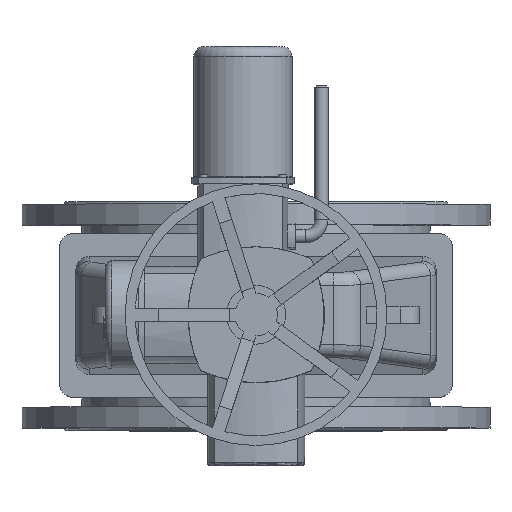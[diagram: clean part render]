
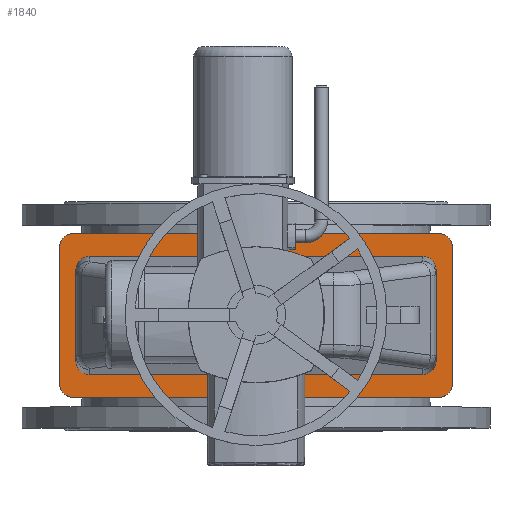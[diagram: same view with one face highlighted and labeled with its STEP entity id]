
A CAD part, top view. The second image highlights one B-rep face of the part: STEP entity #1840.
In plain terms, the highlighted planar face has unit normal (0, 0, 1).
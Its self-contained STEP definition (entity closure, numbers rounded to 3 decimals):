
#1840=ADVANCED_FACE('',(#7058,#7060),#7062,.T.);
#7058=FACE_BOUND('',#7059,.T.);
#7059=EDGE_LOOP('',(#10910,#10911,#10912,#10913,#10914,#10915,#10916,#10917));
#7060=FACE_BOUND('',#7061,.T.);
#7061=EDGE_LOOP('',(#10918,#10919,#10920,#10921,#10922,#10923,#10924,#10925));
#7062=PLANE('',#7063);
#7063=AXIS2_PLACEMENT_3D('',#7064,#7065,#7066);
#7064=CARTESIAN_POINT('',(0.,0.,666.));
#7065=DIRECTION('',(0.,-0.,1.));
#7066=DIRECTION('',(0.,1.,0.));
#10910=ORIENTED_EDGE('',*,*,#12254,.F.);
#10911=ORIENTED_EDGE('',*,*,#12267,.T.);
#10912=ORIENTED_EDGE('',*,*,#12266,.F.);
#10913=ORIENTED_EDGE('',*,*,#12264,.T.);
#10914=ORIENTED_EDGE('',*,*,#12262,.F.);
#10915=ORIENTED_EDGE('',*,*,#12260,.T.);
#10916=ORIENTED_EDGE('',*,*,#12258,.F.);
#10917=ORIENTED_EDGE('',*,*,#12255,.T.);
#10918=ORIENTED_EDGE('',*,*,#12268,.F.);
#10919=ORIENTED_EDGE('',*,*,#12269,.F.);
#10920=ORIENTED_EDGE('',*,*,#12270,.F.);
#10921=ORIENTED_EDGE('',*,*,#12271,.F.);
#10922=ORIENTED_EDGE('',*,*,#12272,.F.);
#10923=ORIENTED_EDGE('',*,*,#12273,.F.);
#10924=ORIENTED_EDGE('',*,*,#12274,.F.);
#10925=ORIENTED_EDGE('',*,*,#12275,.F.);
#12254=EDGE_CURVE('',#13472,#13470,#13474,.F.);
#12255=EDGE_CURVE('',#13475,#13470,#13476,.T.);
#12258=EDGE_CURVE('',#13475,#13478,#13480,.F.);
#12260=EDGE_CURVE('',#13481,#13478,#13483,.T.);
#12262=EDGE_CURVE('',#13481,#13484,#13486,.F.);
#12264=EDGE_CURVE('',#13487,#13484,#13489,.T.);
#12266=EDGE_CURVE('',#13487,#13490,#13492,.F.);
#12267=EDGE_CURVE('',#13472,#13490,#13493,.T.);
#12268=EDGE_CURVE('',#13494,#13495,#13496,.F.);
#12269=EDGE_CURVE('',#13497,#13494,#13498,.T.);
#12270=EDGE_CURVE('',#13499,#13497,#13500,.T.);
#12271=EDGE_CURVE('',#13501,#13499,#13502,.T.);
#12272=EDGE_CURVE('',#13503,#13501,#13504,.F.);
#12273=EDGE_CURVE('',#13505,#13503,#13506,.T.);
#12274=EDGE_CURVE('',#13507,#13505,#13508,.T.);
#12275=EDGE_CURVE('',#13495,#13507,#13509,.T.);
#13470=VERTEX_POINT('',#16576);
#13472=VERTEX_POINT('',#16580);
#13474=CIRCLE('',#16584,20.);
#13475=VERTEX_POINT('',#16588);
#13476=LINE('',#16589,#16590);
#13478=VERTEX_POINT('',#16595);
#13480=CIRCLE('',#16599,20.);
#13481=VERTEX_POINT('',#16603);
#13483=LINE('',#16607,#16608);
#13484=VERTEX_POINT('',#16610);
#13486=CIRCLE('',#16614,20.);
#13487=VERTEX_POINT('',#16618);
#13489=LINE('',#16622,#16623);
#13490=VERTEX_POINT('',#16625);
#13492=CIRCLE('',#16629,20.);
#13493=LINE('',#16633,#16634);
#13494=VERTEX_POINT('',#16636);
#13495=VERTEX_POINT('',#16637);
#13496=(BOUNDED_CURVE()B_SPLINE_CURVE(3,
(#16638,#16639,#16640,#16641),
.UNSPECIFIED.,.F.,.F.)B_SPLINE_CURVE_WITH_KNOTS((4,4),
(0.,1.),
.UNSPECIFIED.)CURVE()GEOMETRIC_REPRESENTATION_ITEM()RATIONAL_B_SPLINE_CURVE((1.,
0.805,0.805,1.))REPRESENTATION_ITEM(''));
#13497=VERTEX_POINT('',#16642);
#13498=LINE('',#16643,#16644);
#13499=VERTEX_POINT('',#16646);
#13500=(BOUNDED_CURVE()B_SPLINE_CURVE(3,
(#16647,#16648,#16649,#16650),
.UNSPECIFIED.,.F.,.F.)B_SPLINE_CURVE_WITH_KNOTS((4,4),
(0.,1.),
.UNSPECIFIED.)CURVE()GEOMETRIC_REPRESENTATION_ITEM()RATIONAL_B_SPLINE_CURVE((1.,
0.805,0.805,1.))REPRESENTATION_ITEM(''));
#13501=VERTEX_POINT('',#16651);
#13502=LINE('',#16652,#16653);
#13503=VERTEX_POINT('',#16655);
#13504=(BOUNDED_CURVE()B_SPLINE_CURVE(3,
(#16656,#16657,#16658,#16659),
.UNSPECIFIED.,.F.,.F.)B_SPLINE_CURVE_WITH_KNOTS((4,4),
(0.,1.),
.UNSPECIFIED.)CURVE()GEOMETRIC_REPRESENTATION_ITEM()RATIONAL_B_SPLINE_CURVE((1.,
0.805,0.805,1.))REPRESENTATION_ITEM(''));
#13505=VERTEX_POINT('',#16660);
#13506=LINE('',#16661,#16662);
#13507=VERTEX_POINT('',#16664);
#13508=(BOUNDED_CURVE()B_SPLINE_CURVE(3,
(#16665,#16666,#16667,#16668),
.UNSPECIFIED.,.F.,.F.)B_SPLINE_CURVE_WITH_KNOTS((4,4),
(0.,1.),
.UNSPECIFIED.)CURVE()GEOMETRIC_REPRESENTATION_ITEM()RATIONAL_B_SPLINE_CURVE((1.,
0.805,0.805,1.))REPRESENTATION_ITEM(''));
#13509=LINE('',#16669,#16670);
#16576=CARTESIAN_POINT('',(-300.,-105.,666.));
#16580=CARTESIAN_POINT('',(-280.,-125.,666.));
#16584=AXIS2_PLACEMENT_3D('',#16585,#16586,#16587);
#16585=CARTESIAN_POINT('',(-280.,-105.,666.));
#16586=DIRECTION('',(0.,-0.,1.));
#16587=DIRECTION('',(-1.,0.,0.));
#16588=CARTESIAN_POINT('',(-300.,105.,666.));
#16589=CARTESIAN_POINT('',(-300.,105.,666.));
#16590=VECTOR('',#16591,1.);
#16591=DIRECTION('',(0.,-1.,0.));
#16595=CARTESIAN_POINT('',(-280.,125.,666.));
#16599=AXIS2_PLACEMENT_3D('',#16600,#16601,#16602);
#16600=CARTESIAN_POINT('',(-280.,105.,666.));
#16601=DIRECTION('',(0.,-0.,1.));
#16602=DIRECTION('',(0.,1.,0.));
#16603=CARTESIAN_POINT('',(280.,125.,666.));
#16607=CARTESIAN_POINT('',(280.,125.,666.));
#16608=VECTOR('',#16609,1.);
#16609=DIRECTION('',(-1.,0.,0.));
#16610=CARTESIAN_POINT('',(300.,105.,666.));
#16614=AXIS2_PLACEMENT_3D('',#16615,#16616,#16617);
#16615=CARTESIAN_POINT('',(280.,105.,666.));
#16616=DIRECTION('',(0.,-0.,1.));
#16617=DIRECTION('',(1.,0.,0.));
#16618=CARTESIAN_POINT('',(300.,-105.,666.));
#16622=CARTESIAN_POINT('',(300.,-105.,666.));
#16623=VECTOR('',#16624,1.);
#16624=DIRECTION('',(0.,1.,0.));
#16625=CARTESIAN_POINT('',(280.,-125.,666.));
#16629=AXIS2_PLACEMENT_3D('',#16630,#16631,#16632);
#16630=CARTESIAN_POINT('',(280.,-105.,666.));
#16631=DIRECTION('',(0.,-0.,1.));
#16632=DIRECTION('',(0.,-1.,0.));
#16633=CARTESIAN_POINT('',(-280.,-125.,666.));
#16634=VECTOR('',#16635,1.);
#16635=DIRECTION('',(1.,0.,0.));
#16636=CARTESIAN_POINT('',(255.,-90.,666.));
#16637=CARTESIAN_POINT('',(275.,-69.924,666.));
#16638=CARTESIAN_POINT('',(275.,-69.924,666.));
#16639=CARTESIAN_POINT('',(275.,-81.684,666.));
#16640=CARTESIAN_POINT('',(266.716,-90.,666.));
#16641=CARTESIAN_POINT('',(255.,-90.,666.));
#16642=CARTESIAN_POINT('',(-255.,-90.,666.));
#16643=CARTESIAN_POINT('',(-255.,-90.,666.));
#16644=VECTOR('',#16645,1.);
#16645=DIRECTION('',(1.,0.,0.));
#16646=CARTESIAN_POINT('',(-275.,-69.924,666.));
#16647=CARTESIAN_POINT('',(-275.,-69.924,666.));
#16648=CARTESIAN_POINT('',(-275.,-81.684,666.));
#16649=CARTESIAN_POINT('',(-266.716,-90.,666.));
#16650=CARTESIAN_POINT('',(-255.,-90.,666.));
#16651=CARTESIAN_POINT('',(-275.,69.924,666.));
#16652=CARTESIAN_POINT('',(-275.,69.924,666.));
#16653=VECTOR('',#16654,1.);
#16654=DIRECTION('',(0.,-1.,0.));
#16655=CARTESIAN_POINT('',(-255.,90.,666.));
#16656=CARTESIAN_POINT('',(-275.,69.924,666.));
#16657=CARTESIAN_POINT('',(-275.,81.684,666.));
#16658=CARTESIAN_POINT('',(-266.716,90.,666.));
#16659=CARTESIAN_POINT('',(-255.,90.,666.));
#16660=CARTESIAN_POINT('',(255.,90.,666.));
#16661=CARTESIAN_POINT('',(255.,90.,666.));
#16662=VECTOR('',#16663,1.);
#16663=DIRECTION('',(-1.,0.,0.));
#16664=CARTESIAN_POINT('',(275.,69.924,666.));
#16665=CARTESIAN_POINT('',(275.,69.924,666.));
#16666=CARTESIAN_POINT('',(275.,81.684,666.));
#16667=CARTESIAN_POINT('',(266.716,90.,666.));
#16668=CARTESIAN_POINT('',(255.,90.,666.));
#16669=CARTESIAN_POINT('',(275.,-69.924,666.));
#16670=VECTOR('',#16671,1.);
#16671=DIRECTION('',(0.,1.,0.));
